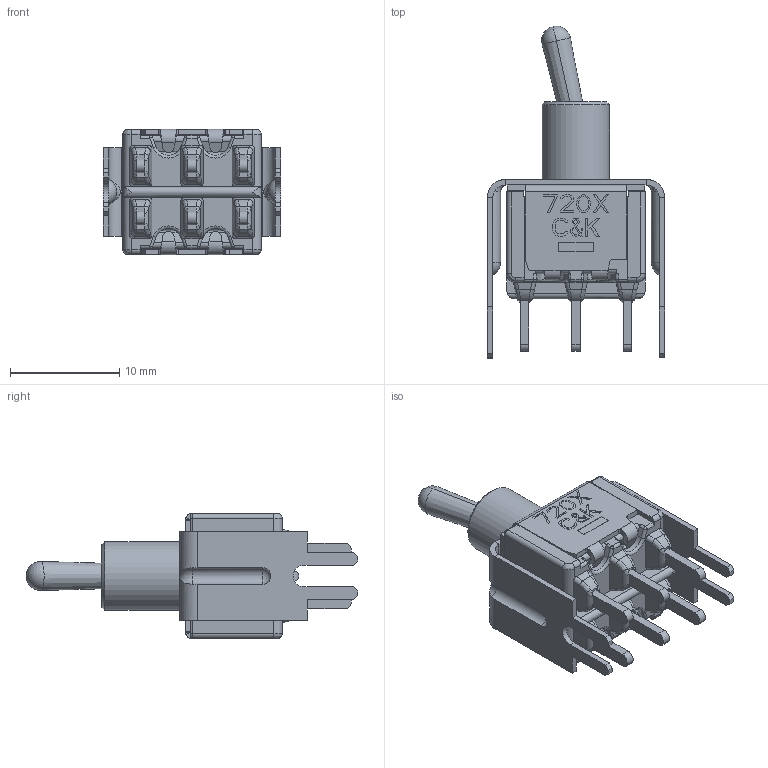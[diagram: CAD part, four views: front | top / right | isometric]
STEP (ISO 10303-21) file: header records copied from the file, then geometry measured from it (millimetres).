
FILE_DESCRIPTION((''),'2;1');
FILE_NAME('72XXMD9V3_SW0001_PRT','2012-08-08T',('jtrepler'),(''),'PRO/ENGINEER BY PARAMETRIC TECHNOLOGY CORPORATION, 2011080','PRO/ENGINEER BY PARAMETRIC TECHNOLOGY CORPORATION, 2011080','');
FILE_SCHEMA(('AUTOMOTIVE_DESIGN_CC2 { 1 2 10303 214 -1 1 5 2 }'));
Length unit declared in the file: inch
Products named in the file (1): 72XXMD9V3_SW0001_PRT
Bounding box: 16.26 x 30.43 x 11.48 mm (x, y, z)
Volume: 1089.5 mm3; surface area: 2996.1 mm2
Topology: 1 solids, 1 shells, 1041 faces, 2800 edges, 1756 vertices
Faces by surface type: plane 742, cylinder 186, bspline 66, sphere 18, torus 16, cone 13
Entity records: 35506 total; most frequent: CARTESIAN_POINT 10029, ORIENTED_EDGE 5592, DIRECTION 4838, EDGE_CURVE 2796, VECTOR 2126, LINE 2126, VERTEX_POINT 1756, AXIS2_PLACEMENT_3D 1356
